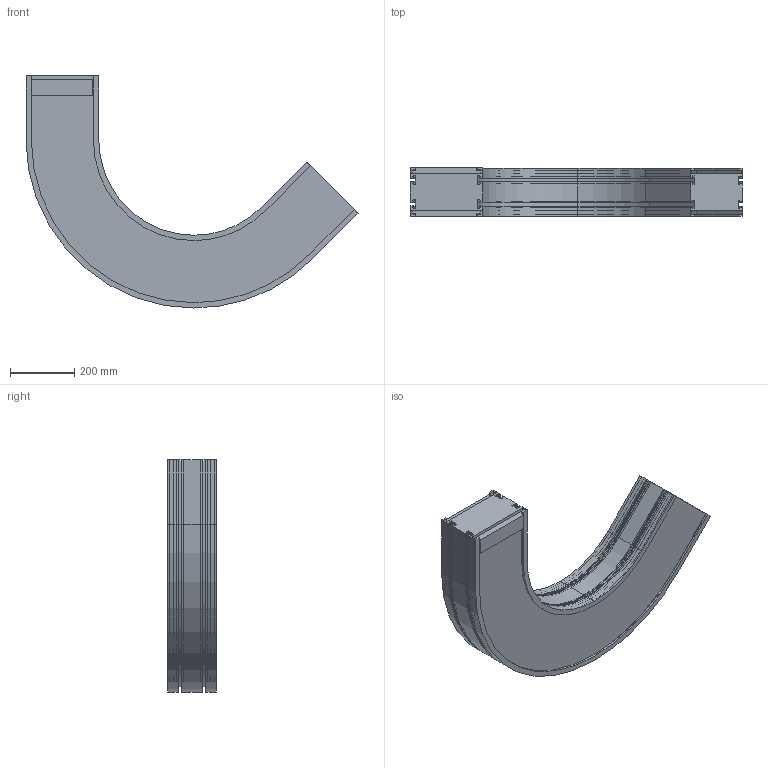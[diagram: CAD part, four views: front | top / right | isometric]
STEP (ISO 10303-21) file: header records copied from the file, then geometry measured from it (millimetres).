
FILE_DESCRIPTION (( 'STEP AP203' ), '1' );
FILE_NAME ('F2-750-C135.STEP', '2009-02-16T12:21:21', ( 'faber' ), ( '' ), 'SwSTEP 2.0', 'SolidWorks 2008', '' );
FILE_SCHEMA (( 'CONFIG_CONTROL_DESIGN' ));
Length unit declared in the file: millimetre
Products named in the file (3): Tapis_750; Courbe_750; F2-750-C135
Assembly tree (3 placements, depth 2):
  F2-750-C135
    Tapis_750  x2
    Courbe_750
Bounding box: 1035.09 x 152.88 x 723.5 mm (x, y, z)
Volume: 34895696 mm3; surface area: 1849576.5 mm2
Topology: 3 solids, 3 shells, 232 faces, 678 edges, 452 vertices
Faces by surface type: plane 148, cylinder 84
Entity records: 7743 total; most frequent: CARTESIAN_POINT 1318, ORIENTED_EDGE 1308, DIRECTION 1278, EDGE_CURVE 654, VECTOR 486, LINE 486, VERTEX_POINT 436, AXIS2_PLACEMENT_3D 396
